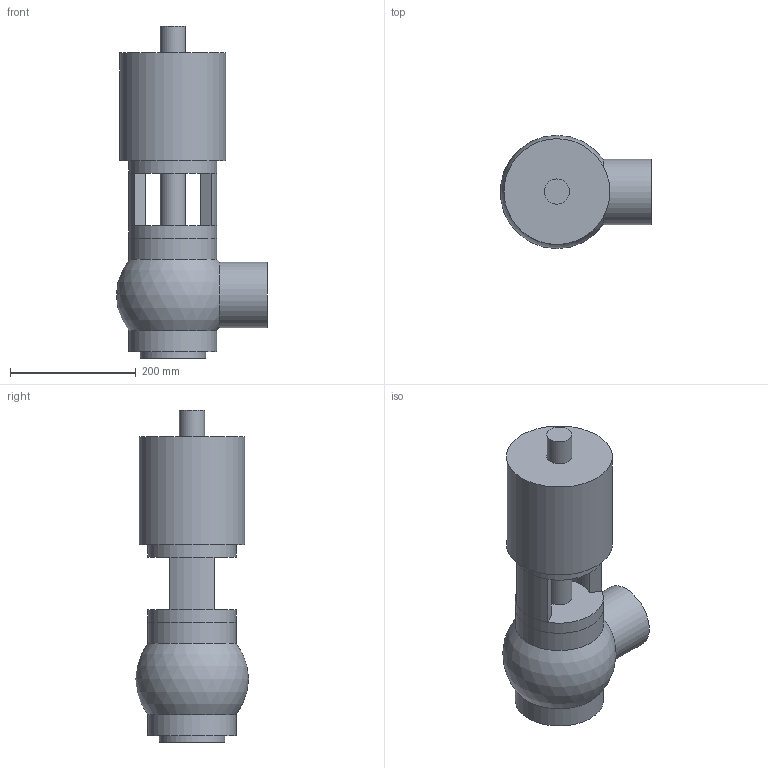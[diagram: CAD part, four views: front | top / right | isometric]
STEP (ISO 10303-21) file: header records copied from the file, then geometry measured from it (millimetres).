
FILE_DESCRIPTION(('FreeCAD Model'),'2;1');
FILE_NAME( '/home/martin/Documents/proyect/valves/stp/valve_L_DN-100.step', '2018-01-12T21:56:57',('Author'),(''), 'Open CASCADE STEP processor 6.8','FreeCAD','Unknown');
FILE_SCHEMA(('AUTOMOTIVE_DESIGN_CC2 { 1 2 10303 214 -1 1 5 4 }'));
Length unit declared in the file: millimetre
Products named in the file (3): ASSEMBLY; valve_L_DN-100-body; valve_L_DN-100-head
Assembly tree (2 placements, depth 2):
  ASSEMBLY
    valve_L_DN-100-body
    valve_L_DN-100-head
Bounding box: 239.34 x 180 x 527 mm (x, y, z)
Volume: 6266758.6 mm3; surface area: 450828.2 mm2
Topology: 2 solids, 2 shells, 33 faces, 74 edges, 46 vertices
Faces by surface type: cylinder 16, plane 15, sphere 2
Full cylindrical faces by diameter (mm): 40 x2, 100 x2, 104 x2, 140 x4, 168 x1
Entity records: 2125 total; most frequent: CARTESIAN_POINT 421, DIRECTION 324, ORIENTED_EDGE 146, PCURVE 146, DEFINITIONAL_REPRESENTATION 146, LINE 135, VECTOR 135, AXIS2_PLACEMENT_3D 81
